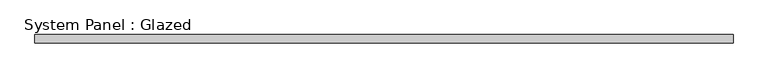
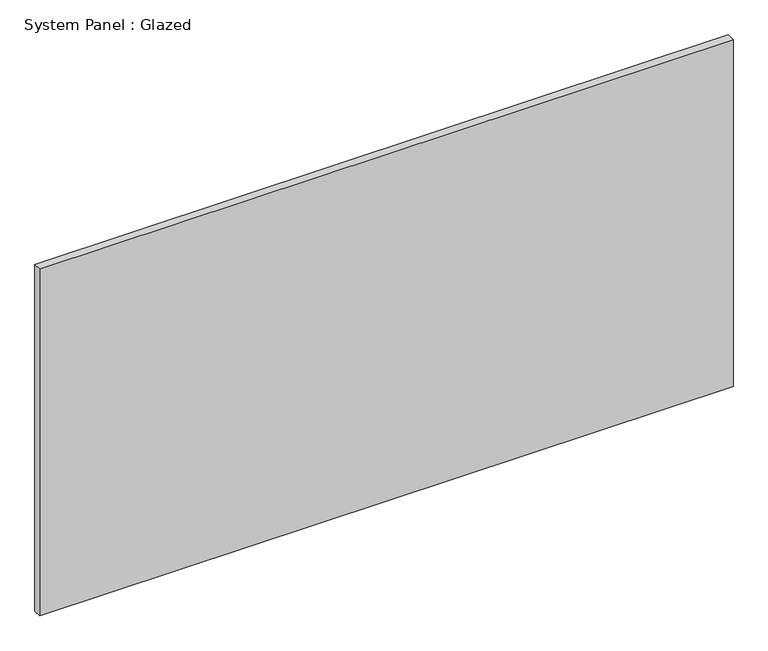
"""IFC4 building model written with IfcOpenShell, lengths in millimetres: plate geometry, System Panel : Glazed."""

from ifc_helpers import new_model, si_unit, origin, origin_with_axes, place, context, project, spatial, polyline, outline, extrude, source, transform, mapped, element, save


def system_panel_glazed_a7875b16(model_context):
    return source(origin(), model_context, "Body", "SweptSolid", [
        extrude(outline(polyline([(1062.7434555, 24.5), (-1062.7434555, 24.5), (-1062.7434555, 49.5), (1062.7434555, 49.5), (1062.7434555, 24.5)])), origin_with_axes(), (0.0, 0.0, 1.0), 1125.0),
    ])


if __name__ == "__main__":
    model = new_model("IFC4")
    model_context = context("Model", 3, world=origin())
    ifc_project = project(units=[si_unit("LENGTHUNIT", "METRE", prefix="MILLI")], contexts=[model_context])
    site = spatial("IfcSite", under=ifc_project)
    building = spatial("IfcBuilding", under=site)
    placement = place(None, origin())
    system_panel_glazed_shape = system_panel_glazed_a7875b16(model_context)
    element("IfcPlate", 1, ObjectType="System Panel : Glazed", at=placement, inside=building, context=model_context, shape_type="MappedRepresentation", body=[
        mapped(system_panel_glazed_shape, transform((0.0, 0.0, 0.0), x_axis=(1.0, 0.0, 0.0), y_axis=(0.0, 1.0, 0.0), z_axis=(0.0, 0.0, 1.0))),
    ])
    save(model, "model.ifc")
